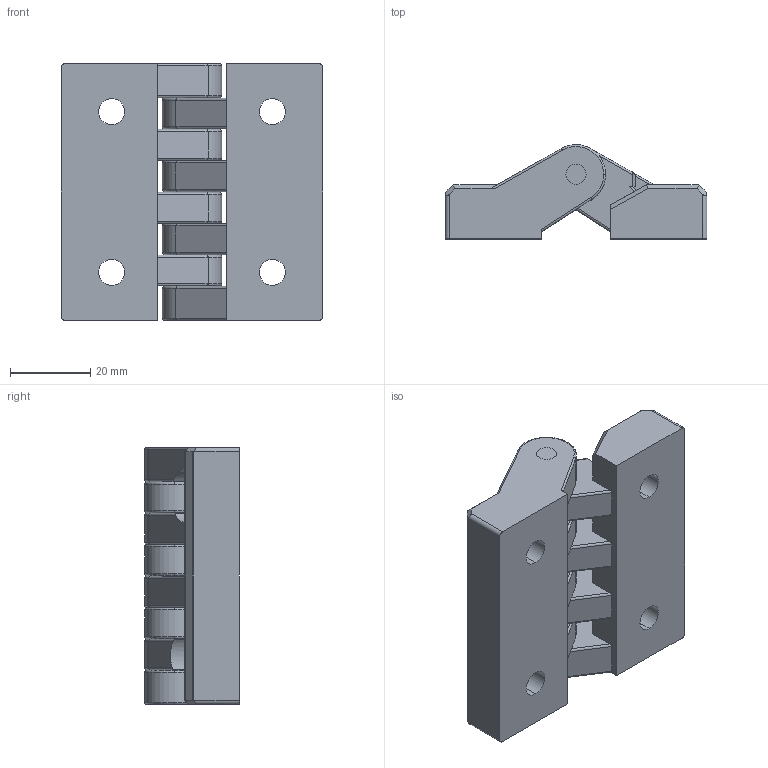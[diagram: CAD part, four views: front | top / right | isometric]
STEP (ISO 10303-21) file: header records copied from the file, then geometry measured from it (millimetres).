
FILE_DESCRIPTION (( 'STEP AP203' ), '1' );
FILE_NAME ('CL-265-1.STEP', '2017-09-26T03:06:07', ( '' ), ( '' ), 'SwSTEP 2.0', 'SolidWorks 2010', '' );
FILE_SCHEMA (( 'CONFIG_CONTROL_DESIGN' ));
Length unit declared in the file: millimetre
Products named in the file (3): CL-265-1; 主體; pin
Assembly tree (3 placements, depth 2):
  CL-265-1
    主體  x2
    pin
Bounding box: 65.2 x 23.5 x 64 mm (x, y, z)
Volume: 53730 mm3; surface area: 19634.4 mm2
Topology: 3 solids, 3 shells, 198 faces, 546 edges, 350 vertices
Faces by surface type: cylinder 88, plane 70, torus 32, cone 8
Entity records: 3607 total; most frequent: CARTESIAN_POINT 702, DIRECTION 558, ORIENTED_EDGE 552, EDGE_CURVE 276, AXIS2_PLACEMENT_3D 213, VERTEX_POINT 177, LINE 132, VECTOR 132
